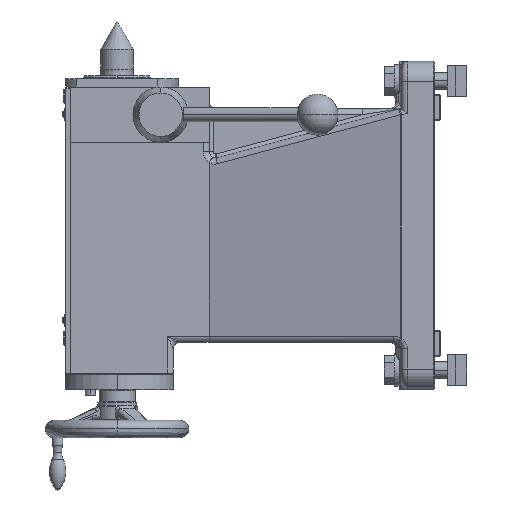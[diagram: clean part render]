
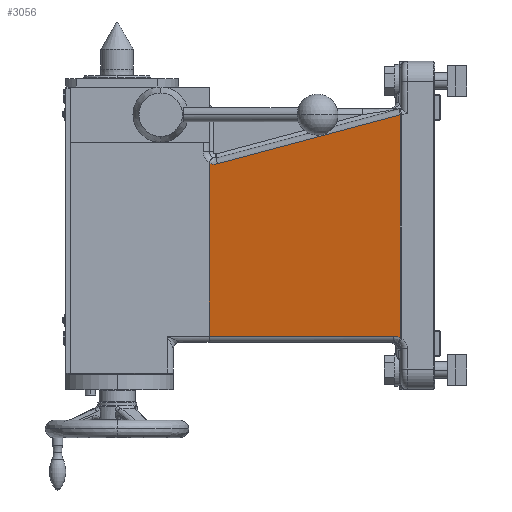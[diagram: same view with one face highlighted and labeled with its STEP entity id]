
A CAD part, left-side view. The second image highlights one B-rep face of the part: STEP entity #3056.
In plain terms, the highlighted planar face has unit normal (-0.975, 0.224, 0).
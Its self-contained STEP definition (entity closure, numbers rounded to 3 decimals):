
#3056 = ADVANCED_FACE ( 'NONE', ( #89882 ), #28291, .F. ) ;
#3109 = VECTOR ( 'NONE', #84626, 1000. ) ;
#3557 = LINE ( 'NONE', #26704, #25462 ) ;
#5926 = CARTESIAN_POINT ( 'NONE',  ( -62., 220., -99.347 ) ) ;
#6970 = VERTEX_POINT ( 'NONE', #65330 ) ;
#9452 = CARTESIAN_POINT ( 'NONE',  ( -103.311, 40.345, -268. ) ) ;
#11334 = EDGE_CURVE ( 'NONE', #28651, #35201, #3557, .T. ) ;
#12443 = LINE ( 'NONE', #77560, #32129 ) ;
#14415 = EDGE_CURVE ( 'NONE', #31063, #6970, #20411, .T. ) ;
#15849 =( BOUNDED_CURVE ( )  B_SPLINE_CURVE ( 3, ( #58029, #21171, #52816, #83314 ),
 .UNSPECIFIED., .F., .F. ) 
 B_SPLINE_CURVE_WITH_KNOTS ( ( 4, 4 ),
 ( 4.451, 5.111 ),
 .UNSPECIFIED. ) 
 CURVE ( )  GEOMETRIC_REPRESENTATION_ITEM ( )  RATIONAL_B_SPLINE_CURVE ( ( 1., 0.964, 0.964, 1. ) ) 
 REPRESENTATION_ITEM ( '' )  );
#20050 = CARTESIAN_POINT ( 'NONE',  ( -62., 220., -268. ) ) ;
#20411 = LINE ( 'NONE', #32841, #3109 ) ;
#21171 = CARTESIAN_POINT ( 'NONE',  ( -63.187, 214.837, -100.574 ) ) ;
#21430 = CARTESIAN_POINT ( 'NONE',  ( -103.862, 37.948, -268. ) ) ;
#23216 = DIRECTION ( 'NONE',  ( 0., 0., 1. ) ) ;
#25462 = VECTOR ( 'NONE', #71070, 1000. ) ;
#26704 = CARTESIAN_POINT ( 'NONE',  ( -105., 33., -268. ) ) ;
#28291 = PLANE ( 'NONE',  #47707 ) ;
#28651 = VERTEX_POINT ( 'NONE', #20050 ) ;
#30039 = ORIENTED_EDGE ( 'NONE', *, *, #88143, .T. ) ;
#31063 = VERTEX_POINT ( 'NONE', #67264 ) ;
#31722 = LINE ( 'NONE', #75052, #68730 ) ;
#32129 = VECTOR ( 'NONE', #62625, 1000. ) ;
#32841 = CARTESIAN_POINT ( 'NONE',  ( -64.057, 211.053, -99.561 ) ) ;
#32987 = ORIENTED_EDGE ( 'NONE', *, *, #95921, .T. ) ;
#34001 = EDGE_CURVE ( 'NONE', #36673, #31063, #12443, .T. ) ;
#35201 = VERTEX_POINT ( 'NONE', #9452 ) ;
#36387 = CARTESIAN_POINT ( 'NONE',  ( -104.847, 33.664, -270.032 ) ) ;
#36673 = VERTEX_POINT ( 'NONE', #68382 ) ;
#39165 = ORIENTED_EDGE ( 'NONE', *, *, #34001, .T. ) ;
#40018 = ORIENTED_EDGE ( 'NONE', *, *, #11334, .T. ) ;
#47707 = AXIS2_PLACEMENT_3D ( 'NONE', #80113, #57721, #87576 ) ;
#48473 =( BOUNDED_CURVE ( )  B_SPLINE_CURVE ( 3, ( #50903, #21430, #80720, #36387 ),
 .UNSPECIFIED., .F., .F. ) 
 B_SPLINE_CURVE_WITH_KNOTS ( ( 4, 4 ),
 ( 1.571, 2.161 ),
 .UNSPECIFIED. ) 
 CURVE ( )  GEOMETRIC_REPRESENTATION_ITEM ( )  RATIONAL_B_SPLINE_CURVE ( ( 1., 0.971, 0.971, 1. ) ) 
 REPRESENTATION_ITEM ( '' )  );
#50903 = CARTESIAN_POINT ( 'NONE',  ( -103.311, 40.345, -268. ) ) ;
#52816 = CARTESIAN_POINT ( 'NONE',  ( -62.57, 217.521, -100.391 ) ) ;
#57721 = DIRECTION ( 'NONE',  ( 0.975, -0.224, 0. ) ) ;
#58029 = CARTESIAN_POINT ( 'NONE',  ( -63.785, 212.239, -99.878 ) ) ;
#61763 = ORIENTED_EDGE ( 'NONE', *, *, #14415, .T. ) ;
#62625 = DIRECTION ( 'NONE',  ( 0., 0., 1. ) ) ;
#65330 = CARTESIAN_POINT ( 'NONE',  ( -63.785, 212.239, -99.878 ) ) ;
#67264 = CARTESIAN_POINT ( 'NONE',  ( -104.847, 33.664, -52.029 ) ) ;
#68382 = CARTESIAN_POINT ( 'NONE',  ( -104.847, 33.664, -270.032 ) ) ;
#68730 = VECTOR ( 'NONE', #23216, 1000. ) ;
#69701 = ORIENTED_EDGE ( 'NONE', *, *, #87021, .F. ) ;
#71070 = DIRECTION ( 'NONE',  ( -0.224, -0.975, 0. ) ) ;
#75052 = CARTESIAN_POINT ( 'NONE',  ( -62., 220., -320. ) ) ;
#77560 = CARTESIAN_POINT ( 'NONE',  ( -104.847, 33.664, -51.851 ) ) ;
#80113 = CARTESIAN_POINT ( 'NONE',  ( -105., 33., -320. ) ) ;
#80720 = CARTESIAN_POINT ( 'NONE',  ( -104.39, 35.655, -268.697 ) ) ;
#83314 = CARTESIAN_POINT ( 'NONE',  ( -62., 220., -99.347 ) ) ;
#84574 = VERTEX_POINT ( 'NONE', #5926 ) ;
#84626 = DIRECTION ( 'NONE',  ( 0.217, 0.943, -0.253 ) ) ;
#87021 = EDGE_CURVE ( 'NONE', #28651, #84574, #31722, .T. ) ;
#87576 = DIRECTION ( 'NONE',  ( 0.224, 0.975, 0. ) ) ;
#88143 = EDGE_CURVE ( 'NONE', #35201, #36673, #48473, .T. ) ;
#89334 = EDGE_LOOP ( 'NONE', ( #30039, #39165, #61763, #32987, #69701, #40018 ) ) ;
#89882 = FACE_OUTER_BOUND ( 'NONE', #89334, .T. ) ;
#95921 = EDGE_CURVE ( 'NONE', #6970, #84574, #15849, .T. ) ;
